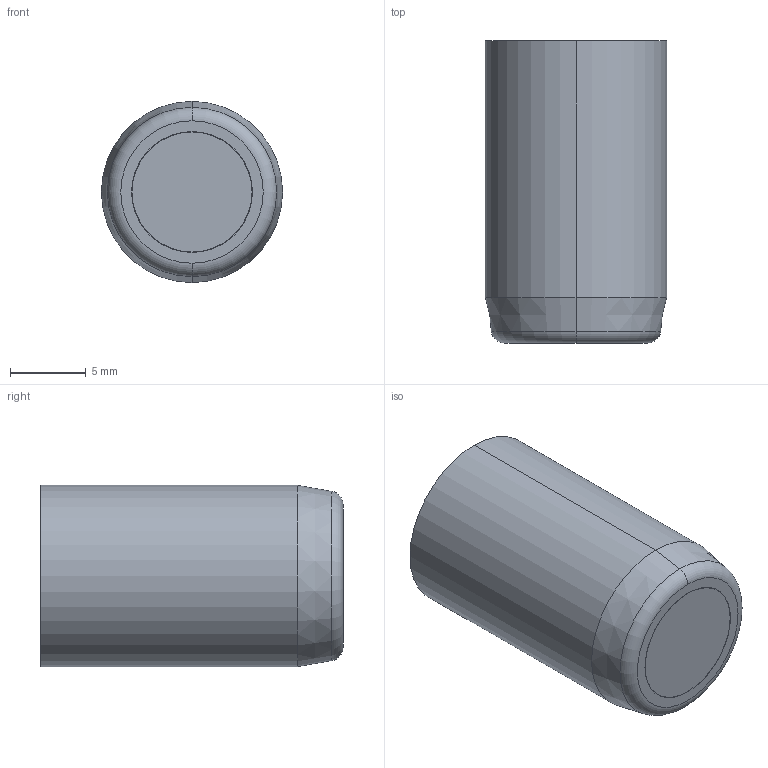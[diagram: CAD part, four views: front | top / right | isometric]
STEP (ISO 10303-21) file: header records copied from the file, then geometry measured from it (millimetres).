
FILE_DESCRIPTION (( 'STEP AP214' ), '1' );
FILE_NAME ('FA1267SF.STEP', '2013-06-28T07:57:11', ( '' ), ( '' ), 'SwSTEP 2.0', 'SolidWorks 2011', '' );
FILE_SCHEMA (( 'AUTOMOTIVE_DESIGN' ));
Length unit declared in the file: millimetre
Products named in the file (6): FA 126700-2 comprimido; FA 126700-3; IA 6717SF; 9FA 126712; FA1267SF; FA 126700-1
Assembly tree (5 placements, depth 2):
  FA1267SF
    FA 126700-3
    FA 126700-1
    FA 126700-2 comprimido
    9FA 126712
    IA 6717SF
Bounding box: 12 x 20 x 12 mm (x, y, z)
Volume: 2015.2 mm3; surface area: 2184.7 mm2
Topology: 5 solids, 5 shells, 310 faces, 782 edges, 508 vertices
Faces by surface type: plane 139, cylinder 131, cone 24, torus 12, bspline 2, sphere 2
Entity records: 10938 total; most frequent: CARTESIAN_POINT 2976, DIRECTION 1690, ORIENTED_EDGE 1560, EDGE_CURVE 780, AXIS2_PLACEMENT_3D 630, VERTEX_POINT 508, VECTOR 430, LINE 430
